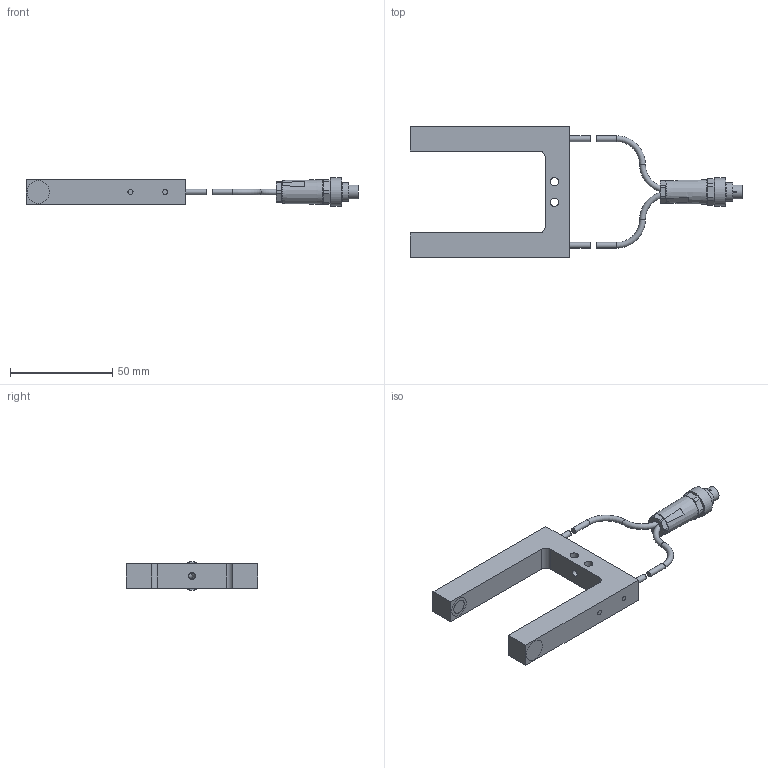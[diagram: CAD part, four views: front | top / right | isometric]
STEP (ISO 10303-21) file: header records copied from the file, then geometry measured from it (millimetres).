
FILE_DESCRIPTION(/* description */ (''),/* implementation_level */ '2;1');
FILE_NAME(/* name */ 'H:\ZVW\Inventor\E-Mail-Zeichnungen\STEP\HOMEPAGE\A-LAS-F12-...-40_60-C_0720_00.stp',/* time_stamp */ '2014-08-18T16:34:02+02:00',/* author */ ('TK-01'),/* organization */ (''),/* preprocessor_version */ 'ST-DEVELOPER v15.2',/* originating_system */ 'Autodesk Inventor 2014',/* authorisation */ '');
FILE_SCHEMA (('AUTOMOTIVE_DESIGN { 1 0 10303 214 3 1 1 }'));
Length unit declared in the file: millimetre
Products named in the file (1): Bauteil16
Bounding box: 162.1 x 64 x 14 mm (x, y, z)
Volume: 115776.6 mm3; surface area: 44002.5 mm2
Topology: 8 solids, 12 shells, 160 faces, 352 edges, 232 vertices
Faces by surface type: plane 72, cylinder 60, cone 11, sphere 9, torus 6, bspline 2
Full cylindrical faces by diameter (mm): 0.5 x7, 2.5 x8, 2.8 x4, 2.9 x2, 3.2 x1, 4.1 x2, 5.5 x1, 6 x1, 6.8 x1, 7.1 x1, 7.15 x2, 7.5 x1, 8 x1, 9 x2, 10 x2, 14 x1
Entity records: 4357 total; most frequent: CARTESIAN_POINT 927, DIRECTION 708, ORIENTED_EDGE 544, AXIS2_PLACEMENT_3D 310, EDGE_CURVE 268, EDGE_LOOP 250, VERTEX_POINT 204, ADVANCED_FACE 160
